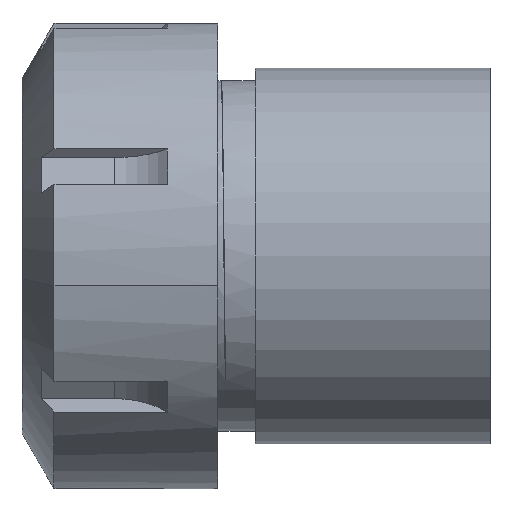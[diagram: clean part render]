
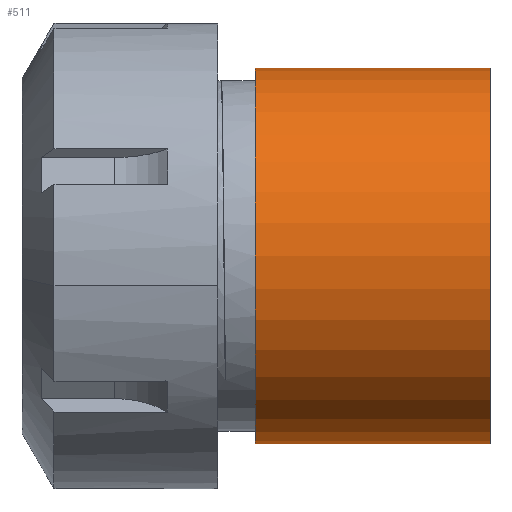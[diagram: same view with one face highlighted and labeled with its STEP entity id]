
A CAD part, left-side view. The second image highlights one B-rep face of the part: STEP entity #511.
In plain terms, the highlighted cylindrical face has radius 25.4 mm (diameter 50.8 mm), a partial arc.
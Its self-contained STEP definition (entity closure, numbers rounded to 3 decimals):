
#511 = ADVANCED_FACE ( 'NONE', ( #3722 ), #8128, .T. ) ;
#625 = VERTEX_POINT ( 'NONE', #3976 ) ;
#912 = DIRECTION ( 'NONE',  ( 0., 0., -1. ) ) ;
#1104 = VERTEX_POINT ( 'NONE', #3349 ) ;
#1116 = ORIENTED_EDGE ( 'NONE', *, *, #2306, .T. ) ;
#1317 = CARTESIAN_POINT ( 'NONE',  ( 0., 19.05, 0. ) ) ;
#1726 = LINE ( 'NONE', #5701, #8311 ) ;
#1802 = LINE ( 'NONE', #2580, #7126 ) ;
#2278 = EDGE_CURVE ( 'NONE', #2294, #1104, #5621, .T. ) ;
#2294 = VERTEX_POINT ( 'NONE', #4250 ) ;
#2306 = EDGE_CURVE ( 'NONE', #625, #1104, #1726, .T. ) ;
#2580 = CARTESIAN_POINT ( 'NONE',  ( 0., 38.1, 25.4 ) ) ;
#2774 = CARTESIAN_POINT ( 'NONE',  ( 0., 19.05, 25.4 ) ) ;
#2789 = DIRECTION ( 'NONE',  ( 0., -1., 0. ) ) ;
#3349 = CARTESIAN_POINT ( 'NONE',  ( 0., -12.7, -25.4 ) ) ;
#3419 = ORIENTED_EDGE ( 'NONE', *, *, #7083, .F. ) ;
#3722 = FACE_OUTER_BOUND ( 'NONE', #6366, .T. ) ;
#3976 = CARTESIAN_POINT ( 'NONE',  ( 0., 19.05, -25.4 ) ) ;
#4129 = AXIS2_PLACEMENT_3D ( 'NONE', #7242, #2789, #7985 ) ;
#4250 = CARTESIAN_POINT ( 'NONE',  ( 0., -12.7, 25.4 ) ) ;
#4724 = DIRECTION ( 'NONE',  ( 0., -1., 0. ) ) ;
#5621 = CIRCLE ( 'NONE', #4129, 25.4 ) ;
#5701 = CARTESIAN_POINT ( 'NONE',  ( 0., 38.1, -25.4 ) ) ;
#5814 = EDGE_CURVE ( 'NONE', #625, #9195, #7041, .T. ) ;
#6331 = AXIS2_PLACEMENT_3D ( 'NONE', #1317, #8927, #8871 ) ;
#6366 = EDGE_LOOP ( 'NONE', ( #3419, #7518, #1116, #6836 ) ) ;
#6836 = ORIENTED_EDGE ( 'NONE', *, *, #2278, .F. ) ;
#7041 = CIRCLE ( 'NONE', #6331, 25.4 ) ;
#7083 = EDGE_CURVE ( 'NONE', #9195, #2294, #1802, .T. ) ;
#7126 = VECTOR ( 'NONE', #4724, 1000. ) ;
#7242 = CARTESIAN_POINT ( 'NONE',  ( 0., -12.7, 0. ) ) ;
#7518 = ORIENTED_EDGE ( 'NONE', *, *, #5814, .F. ) ;
#7985 = DIRECTION ( 'NONE',  ( 0., 0., -1. ) ) ;
#8114 = AXIS2_PLACEMENT_3D ( 'NONE', #9097, #8297, #912 ) ;
#8128 = CYLINDRICAL_SURFACE ( 'NONE', #8114, 25.4 ) ;
#8297 = DIRECTION ( 'NONE',  ( 0., -1., 0. ) ) ;
#8311 = VECTOR ( 'NONE', #9192, 1000. ) ;
#8871 = DIRECTION ( 'NONE',  ( 0., 0., 1. ) ) ;
#8927 = DIRECTION ( 'NONE',  ( 0., 1., 0. ) ) ;
#9097 = CARTESIAN_POINT ( 'NONE',  ( 0., 38.1, 0. ) ) ;
#9192 = DIRECTION ( 'NONE',  ( 0., -1., 0. ) ) ;
#9195 = VERTEX_POINT ( 'NONE', #2774 ) ;
